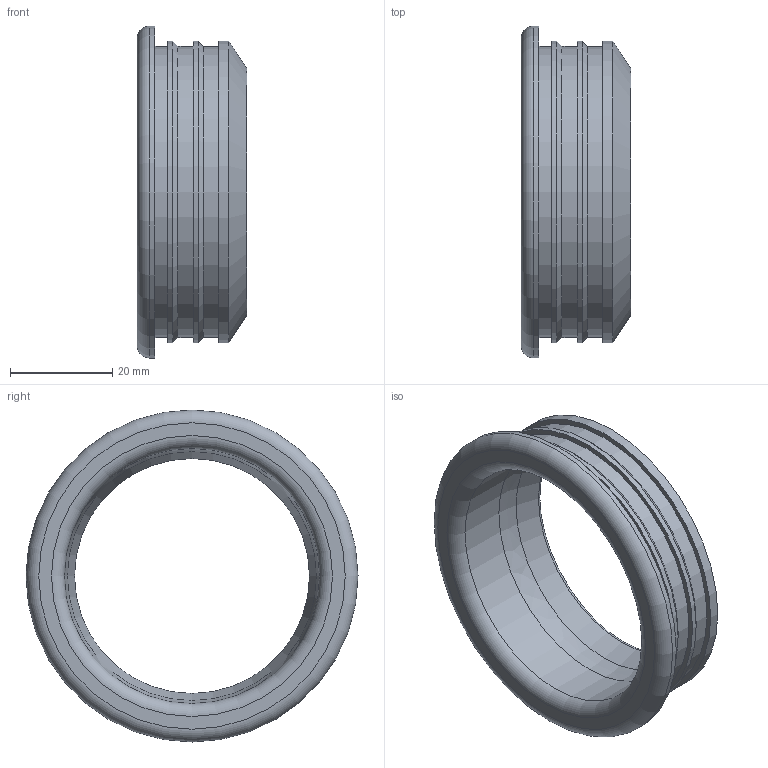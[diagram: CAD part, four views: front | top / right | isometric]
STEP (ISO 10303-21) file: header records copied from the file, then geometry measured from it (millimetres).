
FILE_DESCRIPTION(/* description */ (''),/* implementation_level */ '2;1');
FILE_NAME(/* name */ 'H:\Geberit-Teile\Export\Manschetten ART\stp\153566.stp',/* time_stamp */ '2014-05-12T13:15:19+02:00',/* author */ ('seihe2'),/* organization */ (''),/* preprocessor_version */ 'ST-DEVELOPER v15.2',/* originating_system */ 'Autodesk Inventor 2014',/* authorisation */ '');
FILE_SCHEMA (('AUTOMOTIVE_DESIGN { 1 0 10303 214 3 1 1 }'));
Length unit declared in the file: millimetre
Products named in the file (1): 153566
Bounding box: 21.5 x 65 x 65 mm (x, y, z)
Volume: 16001.4 mm3; surface area: 10352.2 mm2
Topology: 1 solids, 1 shells, 22 faces, 40 edges, 24 vertices
Faces by surface type: cylinder 8, plane 6, cone 4, torus 3, bspline 1
Full cylindrical faces by diameter (mm): 50 x1, 57 x3, 59 x3, 65 x1
Entity records: 537 total; most frequent: CARTESIAN_POINT 100, DIRECTION 92, ORIENTED_EDGE 50, AXIS2_PLACEMENT_3D 46, EDGE_LOOP 43, FACE_BOUND 25, EDGE_CURVE 25, CIRCLE 24
